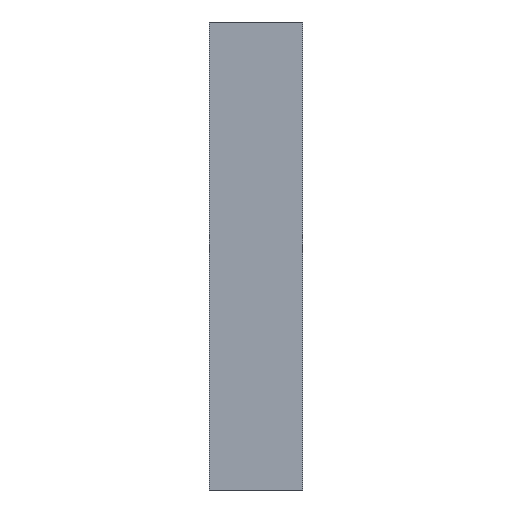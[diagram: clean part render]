
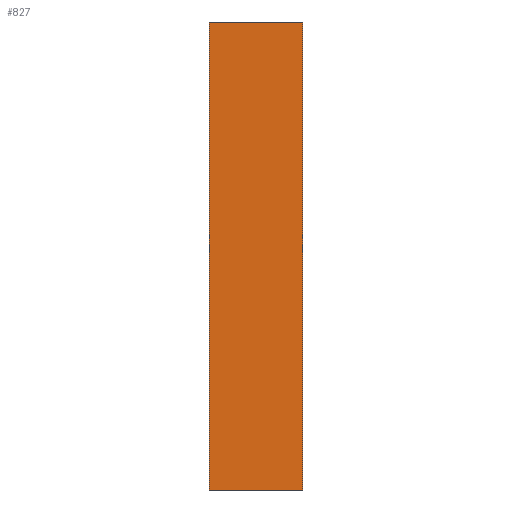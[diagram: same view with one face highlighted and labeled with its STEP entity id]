
A CAD part, left-side view. The second image highlights one B-rep face of the part: STEP entity #827.
In plain terms, the highlighted planar face has unit normal (-1, 0, 0).
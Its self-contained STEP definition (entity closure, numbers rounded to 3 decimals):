
#3 = EDGE_CURVE ( 'NONE', #1270, #809, #25, .T. ) ;
#13 = VECTOR ( 'NONE', #504, 1000. ) ;
#25 = LINE ( 'NONE', #1168, #1049 ) ;
#56 = CARTESIAN_POINT ( 'NONE',  ( -30., 4.7, 12.5 ) ) ;
#80 = VECTOR ( 'NONE', #282, 1000. ) ;
#91 = AXIS2_PLACEMENT_3D ( 'NONE', #427, #841, #337 ) ;
#282 = DIRECTION ( 'NONE',  ( 0., -1., 0. ) ) ;
#288 = ORIENTED_EDGE ( 'NONE', *, *, #309, .T. ) ;
#309 = EDGE_CURVE ( 'NONE', #1270, #660, #1097, .T. ) ;
#337 = DIRECTION ( 'NONE',  ( 0., 0., -1. ) ) ;
#365 = EDGE_CURVE ( 'NONE', #809, #1218, #801, .T. ) ;
#370 = CARTESIAN_POINT ( 'NONE',  ( -30., 4.7, -12.5 ) ) ;
#427 = CARTESIAN_POINT ( 'NONE',  ( -30., 4.7, 12.5 ) ) ;
#467 = CARTESIAN_POINT ( 'NONE',  ( -30., -0.3, 12.5 ) ) ;
#472 = ORIENTED_EDGE ( 'NONE', *, *, #3, .F. ) ;
#504 = DIRECTION ( 'NONE',  ( 0., 0., -1. ) ) ;
#571 = DIRECTION ( 'NONE',  ( 0., 0., -1. ) ) ;
#630 = ORIENTED_EDGE ( 'NONE', *, *, #1195, .T. ) ;
#660 = VERTEX_POINT ( 'NONE', #727 ) ;
#725 = PLANE ( 'NONE',  #91 ) ;
#727 = CARTESIAN_POINT ( 'NONE',  ( -30., 4.7, -12.5 ) ) ;
#801 = LINE ( 'NONE', #467, #13 ) ;
#809 = VERTEX_POINT ( 'NONE', #923 ) ;
#827 = ADVANCED_FACE ( 'NONE', ( #1191 ), #725, .F. ) ;
#828 = DIRECTION ( 'NONE',  ( 0., -1., 0. ) ) ;
#839 = VECTOR ( 'NONE', #571, 1000. ) ;
#841 = DIRECTION ( 'NONE',  ( 1., 0., 0. ) ) ;
#874 = LINE ( 'NONE', #370, #80 ) ;
#886 = CARTESIAN_POINT ( 'NONE',  ( -30., 4.7, 12.5 ) ) ;
#923 = CARTESIAN_POINT ( 'NONE',  ( -30., -0.3, 12.5 ) ) ;
#927 = EDGE_LOOP ( 'NONE', ( #630, #989, #472, #288 ) ) ;
#989 = ORIENTED_EDGE ( 'NONE', *, *, #365, .F. ) ;
#1049 = VECTOR ( 'NONE', #828, 1000. ) ;
#1097 = LINE ( 'NONE', #56, #839 ) ;
#1168 = CARTESIAN_POINT ( 'NONE',  ( -30., 4.7, 12.5 ) ) ;
#1191 = FACE_OUTER_BOUND ( 'NONE', #927, .T. ) ;
#1195 = EDGE_CURVE ( 'NONE', #660, #1218, #874, .T. ) ;
#1218 = VERTEX_POINT ( 'NONE', #1259 ) ;
#1259 = CARTESIAN_POINT ( 'NONE',  ( -30., -0.3, -12.5 ) ) ;
#1270 = VERTEX_POINT ( 'NONE', #886 ) ;
